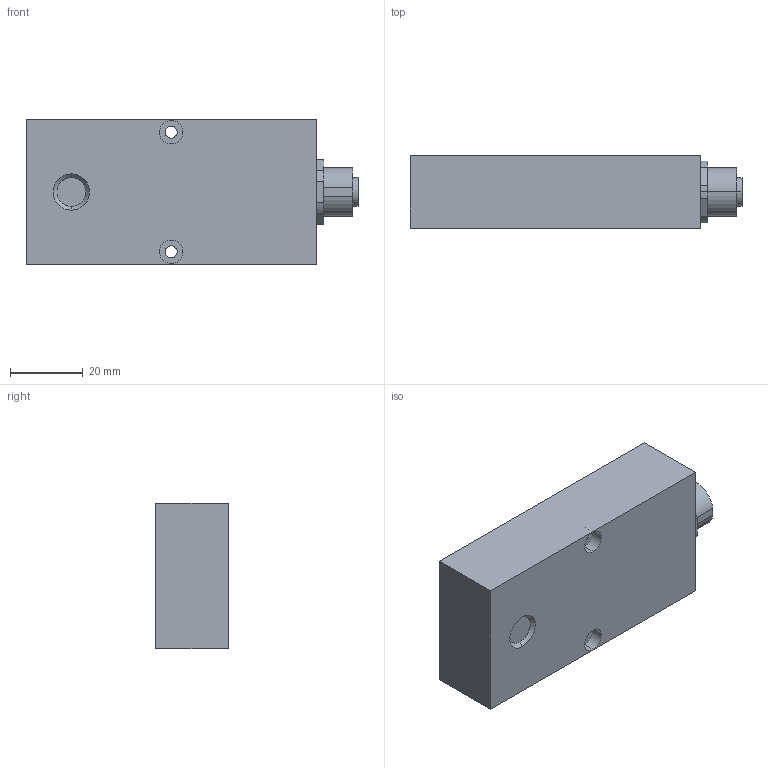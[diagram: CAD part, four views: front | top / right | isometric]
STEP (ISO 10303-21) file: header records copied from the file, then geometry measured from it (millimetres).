
FILE_DESCRIPTION (( 'STEP AP214' ), '1' );
FILE_NAME ('PLC Sensor 2018 df.STEP', '2018-11-13T13:54:14', ( '' ), ( '' ), 'SwSTEP 2.0', 'SolidWorks 2018', '' );
FILE_SCHEMA (( 'AUTOMOTIVE_DESIGN' ));
Length unit declared in the file: millimetre
Products named in the file (1): PLC Sensor 2018 df
Bounding box: 91.5 x 20 x 40 mm (x, y, z)
Volume: 64102.6 mm3; surface area: 13532.1 mm2
Topology: 1 solids, 1 shells, 319 faces, 825 edges, 534 vertices
Faces by surface type: cylinder 157, plane 93, cone 68, bspline 1
Entity records: 11112 total; most frequent: CARTESIAN_POINT 2951, ORIENTED_EDGE 1650, DIRECTION 1481, EDGE_CURVE 825, AXIS2_PLACEMENT_3D 602, VERTEX_POINT 534, EDGE_LOOP 349, ADVANCED_FACE 319
